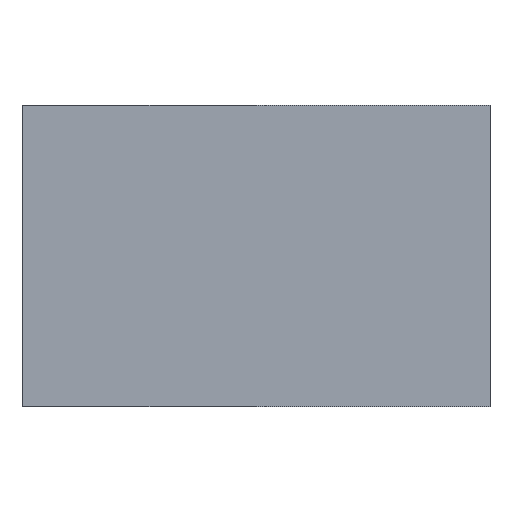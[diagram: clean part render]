
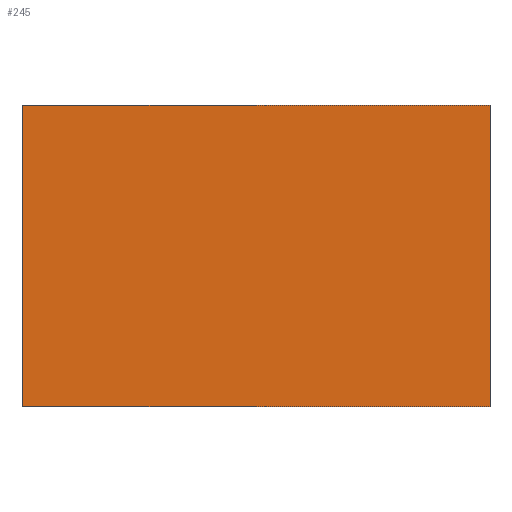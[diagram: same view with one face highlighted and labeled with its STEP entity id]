
A CAD part, front view. The second image highlights one B-rep face of the part: STEP entity #245.
In plain terms, the highlighted planar face has unit normal (0, -1, 0).
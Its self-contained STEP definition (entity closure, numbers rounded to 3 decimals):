
#6 = VERTEX_POINT ( 'NONE', #169 ) ;
#31 = ORIENTED_EDGE ( 'NONE', *, *, #426, .F. ) ;
#38 = LINE ( 'NONE', #237, #117 ) ;
#39 = EDGE_CURVE ( 'NONE', #6, #205, #38, .T. ) ;
#52 = CARTESIAN_POINT ( 'NONE',  ( 42.222, -0.487, 0. ) ) ;
#61 = LINE ( 'NONE', #126, #328 ) ;
#80 = PLANE ( 'NONE',  #230 ) ;
#82 = FACE_OUTER_BOUND ( 'NONE', #250, .T. ) ;
#89 = VECTOR ( 'NONE', #417, 1000. ) ;
#101 = ORIENTED_EDGE ( 'NONE', *, *, #39, .T. ) ;
#117 = VECTOR ( 'NONE', #143, 1000. ) ;
#125 = CARTESIAN_POINT ( 'NONE',  ( 42.222, -0.487, -10. ) ) ;
#126 = CARTESIAN_POINT ( 'NONE',  ( 42.222, -0.487, 0. ) ) ;
#143 = DIRECTION ( 'NONE',  ( 0., 0., 1. ) ) ;
#148 = DIRECTION ( 'NONE',  ( 0., -1., 0. ) ) ;
#153 = CARTESIAN_POINT ( 'NONE',  ( 57.746, -0.487, 0. ) ) ;
#169 = CARTESIAN_POINT ( 'NONE',  ( 57.746, -0.487, -10. ) ) ;
#184 = DIRECTION ( 'NONE',  ( 1., 0., 0. ) ) ;
#190 = DIRECTION ( 'NONE',  ( 1., 0., 0. ) ) ;
#199 = ORIENTED_EDGE ( 'NONE', *, *, #321, .F. ) ;
#205 = VERTEX_POINT ( 'NONE', #153 ) ;
#223 = LINE ( 'NONE', #283, #89 ) ;
#230 = AXIS2_PLACEMENT_3D ( 'NONE', #427, #148, #184 ) ;
#233 = ORIENTED_EDGE ( 'NONE', *, *, #308, .T. ) ;
#237 = CARTESIAN_POINT ( 'NONE',  ( 57.746, -0.487, -10. ) ) ;
#242 = VERTEX_POINT ( 'NONE', #52 ) ;
#245 = ADVANCED_FACE ( 'NONE', ( #82 ), #80, .T. ) ;
#250 = EDGE_LOOP ( 'NONE', ( #199, #31, #233, #101 ) ) ;
#264 = DIRECTION ( 'NONE',  ( 0., 0., 1. ) ) ;
#283 = CARTESIAN_POINT ( 'NONE',  ( 42.222, -0.487, -10. ) ) ;
#308 = EDGE_CURVE ( 'NONE', #419, #6, #223, .T. ) ;
#318 = VECTOR ( 'NONE', #264, 1000. ) ;
#321 = EDGE_CURVE ( 'NONE', #242, #205, #61, .T. ) ;
#327 = LINE ( 'NONE', #125, #318 ) ;
#328 = VECTOR ( 'NONE', #190, 1000. ) ;
#362 = CARTESIAN_POINT ( 'NONE',  ( 42.222, -0.487, -10. ) ) ;
#417 = DIRECTION ( 'NONE',  ( 1., 0., 0. ) ) ;
#419 = VERTEX_POINT ( 'NONE', #362 ) ;
#426 = EDGE_CURVE ( 'NONE', #419, #242, #327, .T. ) ;
#427 = CARTESIAN_POINT ( 'NONE',  ( 42.222, -0.487, -10. ) ) ;
